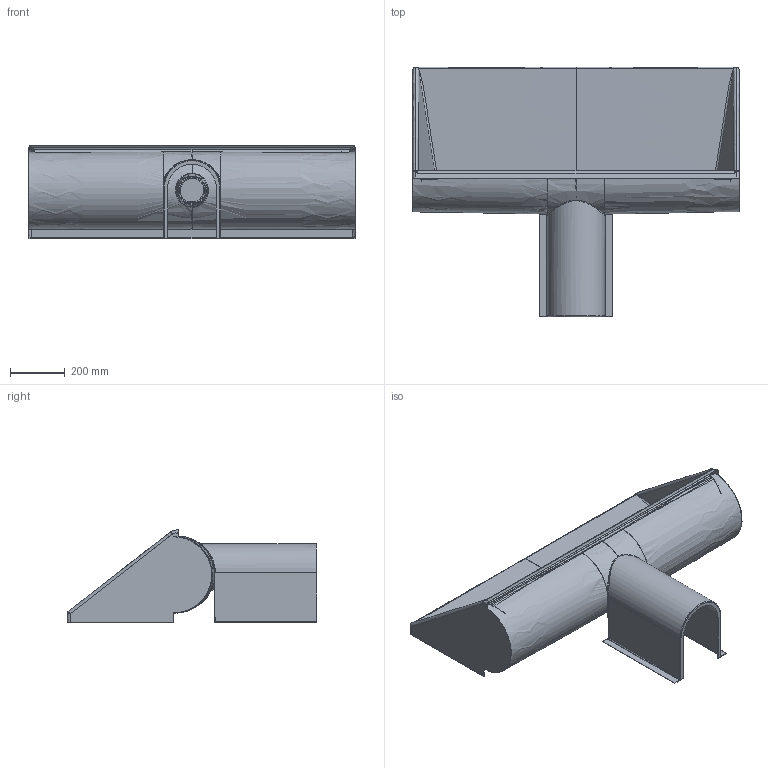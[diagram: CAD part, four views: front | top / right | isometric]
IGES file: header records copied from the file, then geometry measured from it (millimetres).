
Global section: file name: No Iges File Name specified; native system: Autodesk Inventor 2009; preprocessor: AutoDesk Inventor Iges Exporter R2009; author: Finn Lundsgaard; date: 20100203.174935; units: millimetre
Bounding box: 1190 x 910 x 339.44 mm (x, y, z)
Volume: 2391026.8 mm3; surface area: 4582117 mm2
Topology: 4 solids, 4 shells, 373 faces, 972 edges, 590 vertices
Faces by surface type: bspline 233, plane 48, revolution 38, torus 21, cone 18, cylinder 15
